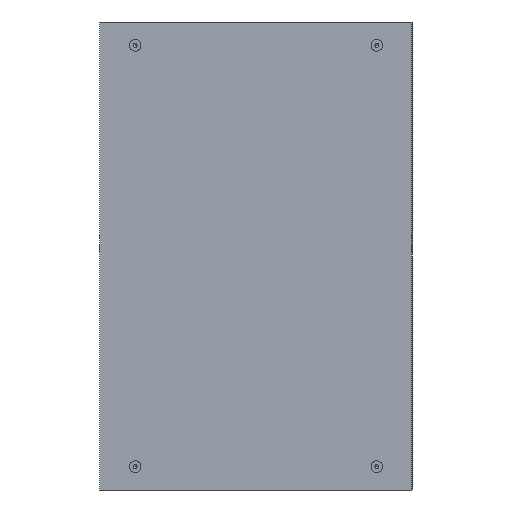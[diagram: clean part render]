
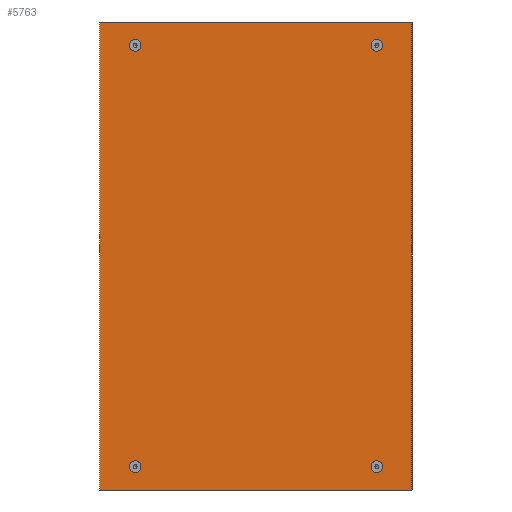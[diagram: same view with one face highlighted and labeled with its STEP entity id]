
A CAD part, left-side view. The second image highlights one B-rep face of the part: STEP entity #5763.
In plain terms, the highlighted planar face has unit normal (-1, 0, 0).
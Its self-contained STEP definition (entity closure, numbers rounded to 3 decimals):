
#471=CIRCLE('',#7638,5.125);
#473=CIRCLE('',#7641,5.125);
#475=CIRCLE('',#7644,5.125);
#476=CIRCLE('',#7673,5.125);
#1659=ORIENTED_EDGE('',*,*,#2655,.T.);
#1660=ORIENTED_EDGE('',*,*,#2656,.T.);
#1661=ORIENTED_EDGE('',*,*,#2657,.T.);
#1662=ORIENTED_EDGE('',*,*,#2658,.T.);
#1663=ORIENTED_EDGE('',*,*,#2553,.F.);
#1664=ORIENTED_EDGE('',*,*,#2555,.F.);
#1665=ORIENTED_EDGE('',*,*,#2557,.F.);
#1666=ORIENTED_EDGE('',*,*,#2659,.F.);
#2553=EDGE_CURVE('',#3155,#3155,#471,.T.);
#2555=EDGE_CURVE('',#3157,#3157,#473,.T.);
#2557=EDGE_CURVE('',#3159,#3159,#475,.T.);
#2655=EDGE_CURVE('',#3234,#3235,#3784,.T.);
#2656=EDGE_CURVE('',#3235,#3236,#3785,.T.);
#2657=EDGE_CURVE('',#3236,#3237,#3786,.T.);
#2658=EDGE_CURVE('',#3237,#3234,#3787,.T.);
#2659=EDGE_CURVE('',#3238,#3238,#476,.T.);
#3155=VERTEX_POINT('',#10604);
#3157=VERTEX_POINT('',#10609);
#3159=VERTEX_POINT('',#10614);
#3234=VERTEX_POINT('',#10815);
#3235=VERTEX_POINT('',#10816);
#3236=VERTEX_POINT('',#10818);
#3237=VERTEX_POINT('',#10820);
#3238=VERTEX_POINT('',#10823);
#3784=LINE('',#10814,#4336);
#3785=LINE('',#10817,#4337);
#3786=LINE('',#10819,#4338);
#3787=LINE('',#10821,#4339);
#4336=VECTOR('',#9089,1000.);
#4337=VECTOR('',#9090,1000.);
#4338=VECTOR('',#9091,1000.);
#4339=VECTOR('',#9092,1000.);
#4742=EDGE_LOOP('',(#1659,#1660,#1661,#1662));
#4743=EDGE_LOOP('',(#1663));
#4744=EDGE_LOOP('',(#1664));
#4745=EDGE_LOOP('',(#1665));
#4746=EDGE_LOOP('',(#1666));
#5164=FACE_BOUND('',#4742,.T.);
#5165=FACE_BOUND('',#4743,.T.);
#5166=FACE_BOUND('',#4744,.T.);
#5167=FACE_BOUND('',#4745,.T.);
#5168=FACE_BOUND('',#4746,.T.);
#5458=PLANE('',#7672);
#5763=ADVANCED_FACE('',(#5164,#5165,#5166,#5167,#5168),#5458,.T.);
#7638=AXIS2_PLACEMENT_3D('',#10603,#8922,#8923);
#7641=AXIS2_PLACEMENT_3D('',#10608,#8928,#8929);
#7644=AXIS2_PLACEMENT_3D('',#10613,#8934,#8935);
#7672=AXIS2_PLACEMENT_3D('',#10813,#9087,#9088);
#7673=AXIS2_PLACEMENT_3D('',#10822,#9093,#9094);
#8922=DIRECTION('',(-1.,0.,0.));
#8923=DIRECTION('',(0.,-1.,0.));
#8928=DIRECTION('',(-1.,0.,0.));
#8929=DIRECTION('',(0.,-1.,0.));
#8934=DIRECTION('',(-1.,0.,0.));
#8935=DIRECTION('',(0.,-1.,0.));
#9087=DIRECTION('',(-1.,0.,0.));
#9088=DIRECTION('',(0.,-1.,0.));
#9089=DIRECTION('',(0.,0.,-1.));
#9090=DIRECTION('',(0.,-1.,0.));
#9091=DIRECTION('',(0.,0.,1.));
#9092=DIRECTION('',(0.,1.,0.));
#9093=DIRECTION('',(-1.,0.,0.));
#9094=DIRECTION('',(0.,-1.,0.));
#10603=CARTESIAN_POINT('',(-1.2,155.,-270.));
#10604=CARTESIAN_POINT('',(-1.2,149.875,-270.));
#10608=CARTESIAN_POINT('',(-1.2,155.,270.));
#10609=CARTESIAN_POINT('',(-1.2,149.875,270.));
#10613=CARTESIAN_POINT('',(-1.2,-155.,-270.));
#10614=CARTESIAN_POINT('',(-1.2,-160.125,-270.));
#10813=CARTESIAN_POINT('',(-1.2,0.,0.));
#10814=CARTESIAN_POINT('',(-1.2,200.,0.));
#10815=CARTESIAN_POINT('',(-1.2,200.,300.));
#10816=CARTESIAN_POINT('',(-1.2,200.,-300.));
#10817=CARTESIAN_POINT('',(-1.2,0.,-300.));
#10818=CARTESIAN_POINT('',(-1.2,-200.,-300.));
#10819=CARTESIAN_POINT('',(-1.2,-200.,0.));
#10820=CARTESIAN_POINT('',(-1.2,-200.,300.));
#10821=CARTESIAN_POINT('',(-1.2,0.,300.));
#10822=CARTESIAN_POINT('',(-1.2,-155.,270.));
#10823=CARTESIAN_POINT('',(-1.2,-160.125,270.));
